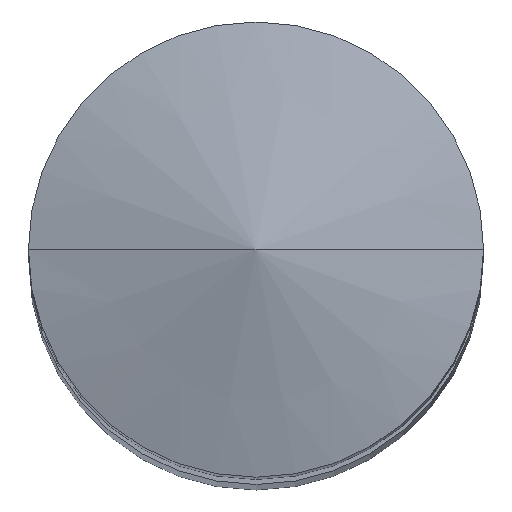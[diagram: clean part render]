
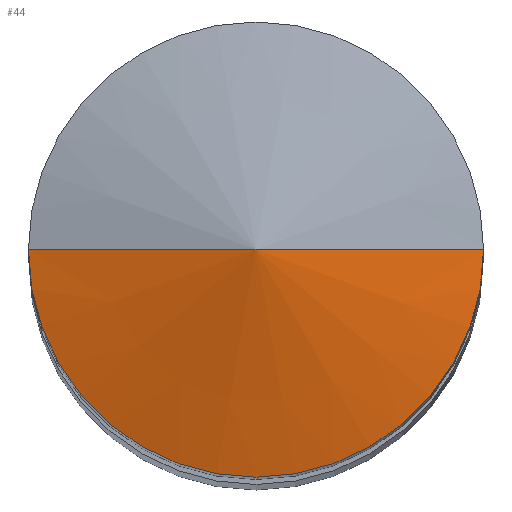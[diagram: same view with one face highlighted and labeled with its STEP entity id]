
A CAD part, top view. The second image highlights one B-rep face of the part: STEP entity #44.
In plain terms, the highlighted conical face has half-angle 75.997 degrees and reference radius 1.002 mm.
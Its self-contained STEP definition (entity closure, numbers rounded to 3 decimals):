
#44=ADVANCED_FACE('',(#88),#89,.T.);
#88=FACE_OUTER_BOUND('',#131,.T.);
#89=CONICAL_SURFACE('',#132,1.003,1.326);
#131=EDGE_LOOP('',(#187,#188,#189));
#132=AXIS2_PLACEMENT_3D('',#190,#191,#192);
#187=ORIENTED_EDGE('',*,*,#256,.T.);
#188=ORIENTED_EDGE('',*,*,#259,.T.);
#189=ORIENTED_EDGE('',*,*,#257,.T.);
#190=CARTESIAN_POINT('',(0.0,0.0,67.75));
#191=DIRECTION('',(-0.0,-0.0,-1.0));
#192=DIRECTION('',(1.0,0.0,0.0));
#256=EDGE_CURVE('',#300,#296,#301,.T.);
#257=EDGE_CURVE('',#292,#300,#302,.T.);
#259=EDGE_CURVE('',#296,#292,#304,.T.);
#292=VERTEX_POINT('',#341);
#296=VERTEX_POINT('',#346);
#300=VERTEX_POINT('',#351);
#301=LINE('',#352,#353);
#302=LINE('',#354,#355);
#304=CIRCLE('',#357,2.005);
#341=CARTESIAN_POINT('',(2.005,0.0,67.5));
#346=CARTESIAN_POINT('',(-2.005,0.,67.5));
#351=CARTESIAN_POINT('',(0.0,0.0,68.0));
#352=CARTESIAN_POINT('',(-1.003,0.,67.75));
#353=VECTOR('',#394,1.0);
#354=CARTESIAN_POINT('',(1.003,0.,67.75));
#355=VECTOR('',#395,1.0);
#357=AXIS2_PLACEMENT_3D('',#396,#397,#398);
#394=DIRECTION('',(-0.97,0.,-0.242));
#395=DIRECTION('',(-0.97,0.,0.242));
#396=CARTESIAN_POINT('',(0.0,0.0,67.5));
#397=DIRECTION('',(0.0,0.0,1.0));
#398=DIRECTION('',(1.0,0.0,0.0));
